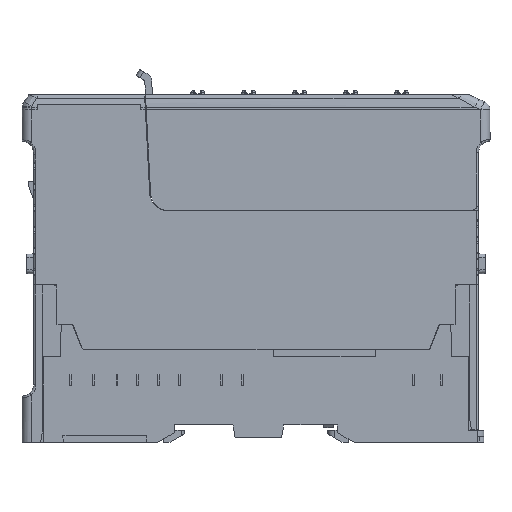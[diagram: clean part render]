
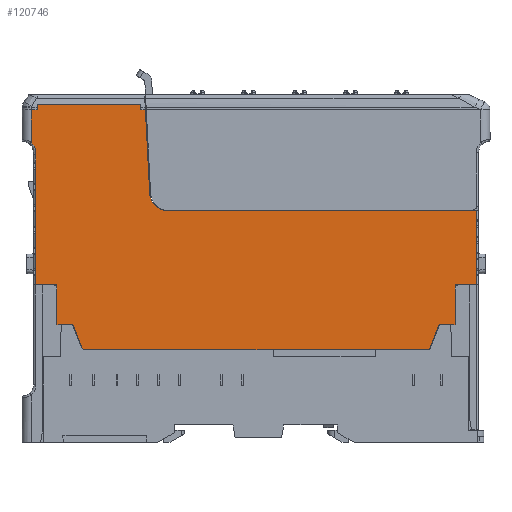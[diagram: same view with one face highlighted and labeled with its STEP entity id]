
A CAD part, left-side view. The second image highlights one B-rep face of the part: STEP entity #120746.
In plain terms, the highlighted planar face has unit normal (-1, 0, 0).
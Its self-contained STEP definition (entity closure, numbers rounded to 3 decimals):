
#107061=DIRECTION('',(0.,0.,-1.));
#107062=VECTOR('',#107061,28.05);
#107063=CARTESIAN_POINT('',(-2.1,98.,62.05));
#107064=LINE('',#107063,#107062);
#107065=CARTESIAN_POINT('',(-2.1,101.,62.5));
#107066=DIRECTION('',(-1.,0.,0.));
#107067=DIRECTION('',(0.,-0.989,-0.15));
#107068=AXIS2_PLACEMENT_3D('',#107065,#107066,#107067);
#107070=DIRECTION('',(0.,0.,
-1.));
#107071=VECTOR('',#107070,7.064);
#107072=CARTESIAN_POINT('',(-2.1,99.001,71.8));
#107073=LINE('',#107072,#107071);
#107074=DIRECTION('',(0.,-1.,0.));
#107075=VECTOR('',#107074,1.294);
#107076=CARTESIAN_POINT('',(-2.1,99.001,71.8));
#107077=LINE('',#107076,#107075);
#107078=DIRECTION('',(0.,0.,-1.));
#107079=VECTOR('',#107078,1.2);
#107080=CARTESIAN_POINT('',(-2.1,97.707,73.));
#107081=LINE('',#107080,#107079);
#107082=DIRECTION('',(0.,1.,0.));
#107083=VECTOR('',#107082,22.28);
#107084=CARTESIAN_POINT('',(-2.1,75.427,73.));
#107085=LINE('',#107084,#107083);
#107086=DIRECTION('',(0.,0.052,0.999));
#107087=VECTOR('',#107086,1.202);
#107088=CARTESIAN_POINT('',(-2.1,75.364,71.8));
#107089=LINE('',#107088,#107087);
#107090=DIRECTION('',(0.,-1.,0.));
#107091=VECTOR('',#107090,0.98);
#107092=CARTESIAN_POINT('',(-2.1,75.364,71.8));
#107093=LINE('',#107092,#107091);
#107094=DIRECTION('',(0.,1.,0.));
#107095=VECTOR('',#107094,66.446);
#107096=CARTESIAN_POINT('',(-2.1,3.,50.));
#107097=LINE('',#107096,#107095);
#107098=DIRECTION('',(0.,0.,1.));
#107099=VECTOR('',#107098,16.);
#107100=CARTESIAN_POINT('',(-2.1,3.,34.));
#107101=LINE('',#107100,#107099);
#107102=DIRECTION('',(0.,0.,1.));
#107103=VECTOR('',#107102,8.549);
#107104=CARTESIAN_POINT('',(-2.1,7.55,25.451));
#107105=LINE('',#107104,#107103);
#107106=DIRECTION('',(0.,-1.,0.));
#107107=VECTOR('',#107106,3.416);
#107108=CARTESIAN_POINT('',(-2.1,10.966,25.451));
#107109=LINE('',#107108,#107107);
#107110=DIRECTION('',(0.,-0.366,0.931));
#107111=VECTOR('',#107110,5.175);
#107112=CARTESIAN_POINT('',(-2.1,12.858,20.634));
#107113=LINE('',#107112,#107111);
#107114=CARTESIAN_POINT('',(-2.1,13.789,21.));
#107115=DIRECTION('',(-1.,0.,0.));
#107116=DIRECTION('',(0.,0.,-1.));
#107117=AXIS2_PLACEMENT_3D('',#107114,#107115,#107116);
#107119=DIRECTION('',(0.,-1.,0.));
#107120=VECTOR('',#107119,73.422);
#107121=CARTESIAN_POINT('',(-2.1,87.211,20.));
#107122=LINE('',#107121,#107120);
#107123=CARTESIAN_POINT('',(-2.1,87.211,21.));
#107124=DIRECTION('',(-1.,0.,0.));
#107125=DIRECTION('',(0.,0.931,-0.366));
#107126=AXIS2_PLACEMENT_3D('',#107123,#107124,#107125);
#107128=DIRECTION('',(0.,-0.366,-0.931));
#107129=VECTOR('',#107128,5.175);
#107130=CARTESIAN_POINT('',(-2.1,90.034,25.451));
#107131=LINE('',#107130,#107129);
#107132=DIRECTION('',(0.,-1.,0.));
#107133=VECTOR('',#107132,3.416);
#107134=CARTESIAN_POINT('',(-2.1,93.45,25.451));
#107135=LINE('',#107134,#107133);
#107136=DIRECTION('',(0.,0.,-1.));
#107137=VECTOR('',#107136,8.549);
#107138=CARTESIAN_POINT('',(-2.1,93.45,34.));
#107139=LINE('',#107138,#107137);
#107140=CARTESIAN_POINT('',(-2.1,98.034,62.05));
#107141=CARTESIAN_POINT('',(-2.1,98.03,62.05));
#107142=CARTESIAN_POINT('',(-2.1,98.023,62.05));
#107143=CARTESIAN_POINT('',(-2.1,98.011,62.05));
#107144=CARTESIAN_POINT('',(-2.1,98.004,62.05));
#107145=CARTESIAN_POINT('',(-2.1,98.,62.05));
#107301=DIRECTION('',(0.,-1.,0.));
#107302=VECTOR('',#107301,4.55);
#107303=CARTESIAN_POINT('',(-2.1,98.,34.));
#107304=LINE('',#107303,#107302);
#107934=DIRECTION('',(0.,-1.,0.));
#107935=VECTOR('',#107934,4.55);
#107936=CARTESIAN_POINT('',(-2.1,7.55,34.));
#107937=LINE('',#107936,#107935);
#113397=DIRECTION('',(0.,0.052,0.999));
#113398=VECTOR('',#113397,18.034);
#113399=CARTESIAN_POINT('',(-2.1,73.441,53.791));
#113400=LINE('',#113399,#113398);
#114424=CARTESIAN_POINT('',(-2.1,69.446,54.));
#114425=DIRECTION('',(1.,0.,0.));
#114426=DIRECTION('',(0.,0.,-1.));
#114427=AXIS2_PLACEMENT_3D('',#114424,#114425,#114426);
#114895=CARTESIAN_POINT('',(-2.1,98.,34.));
#114897=VERTEX_POINT('',#114895);
#114899=CARTESIAN_POINT('',(-2.1,3.,50.));
#114901=VERTEX_POINT('',#114899);
#114904=CARTESIAN_POINT('',(-2.1,3.,34.));
#114906=VERTEX_POINT('',#114904);
#115099=CARTESIAN_POINT('',(-2.1,73.441,53.791));
#115101=VERTEX_POINT('',#115099);
#115103=CARTESIAN_POINT('',(-2.1,69.446,50.));
#115105=VERTEX_POINT('',#115103);
#116125=CARTESIAN_POINT('',(-2.1,88.142,20.634));
#116126=CARTESIAN_POINT('',(-2.1,87.211,20.));
#116127=VERTEX_POINT('',#116125);
#116128=VERTEX_POINT('',#116126);
#116129=CARTESIAN_POINT('',(-2.1,13.789,20.));
#116130=CARTESIAN_POINT('',(-2.1,12.858,20.634));
#116131=VERTEX_POINT('',#116129);
#116132=VERTEX_POINT('',#116130);
#116291=CARTESIAN_POINT('',(-2.1,99.,64.736));
#116293=VERTEX_POINT('',#116291);
#116382=CARTESIAN_POINT('',(-2.1,99.001,71.8));
#116383=VERTEX_POINT('',#116382);
#116398=CARTESIAN_POINT('',(-2.1,74.385,71.8));
#116399=VERTEX_POINT('',#116398);
#117266=CARTESIAN_POINT('',(-2.1,93.45,34.));
#117267=CARTESIAN_POINT('',(-2.1,93.45,25.451));
#117268=VERTEX_POINT('',#117266);
#117269=VERTEX_POINT('',#117267);
#117270=CARTESIAN_POINT('',(-2.1,7.55,25.451));
#117271=CARTESIAN_POINT('',(-2.1,7.55,34.));
#117272=VERTEX_POINT('',#117270);
#117273=VERTEX_POINT('',#117271);
#117274=CARTESIAN_POINT('',(-2.1,75.427,73.));
#117275=CARTESIAN_POINT('',(-2.1,97.707,73.));
#117276=VERTEX_POINT('',#117274);
#117277=VERTEX_POINT('',#117275);
#117796=CARTESIAN_POINT('',(-2.1,90.034,25.451));
#117797=VERTEX_POINT('',#117796);
#117798=CARTESIAN_POINT('',(-2.1,10.966,25.451));
#117799=VERTEX_POINT('',#117798);
#117838=CARTESIAN_POINT('',(-2.1,97.707,71.8));
#117839=VERTEX_POINT('',#117838);
#117862=CARTESIAN_POINT('',(-2.1,75.364,71.8));
#117863=VERTEX_POINT('',#117862);
#117920=VERTEX_POINT('',#107140);
#117921=VERTEX_POINT('',#107145);
#120696=CARTESIAN_POINT('',(-2.1,0.,0.));
#120697=DIRECTION('',(-1.,0.,0.));
#120698=DIRECTION('',(0.,-1.,0.));
#120699=AXIS2_PLACEMENT_3D('',#120696,#120697,#120698);
#120700=PLANE('',#120699);
#120702=ORIENTED_EDGE('',*,*,#120701,.F.);
#120704=ORIENTED_EDGE('',*,*,#120703,.F.);
#120706=ORIENTED_EDGE('',*,*,#120705,.T.);
#120708=ORIENTED_EDGE('',*,*,#120707,.F.);
#120709=ORIENTED_EDGE('',*,*,#120673,.T.);
#120710=ORIENTED_EDGE('',*,*,#120496,.F.);
#120712=ORIENTED_EDGE('',*,*,#120711,.F.);
#120714=ORIENTED_EDGE('',*,*,#120713,.F.);
#120715=ORIENTED_EDGE('',*,*,#120691,.T.);
#120717=ORIENTED_EDGE('',*,*,#120716,.F.);
#120719=ORIENTED_EDGE('',*,*,#120718,.F.);
#120720=ORIENTED_EDGE('',*,*,#118171,.F.);
#120721=ORIENTED_EDGE('',*,*,#119002,.F.);
#120723=ORIENTED_EDGE('',*,*,#120722,.F.);
#120725=ORIENTED_EDGE('',*,*,#120724,.F.);
#120727=ORIENTED_EDGE('',*,*,#120726,.F.);
#120729=ORIENTED_EDGE('',*,*,#120728,.F.);
#120731=ORIENTED_EDGE('',*,*,#120730,.F.);
#120733=ORIENTED_EDGE('',*,*,#120732,.F.);
#120735=ORIENTED_EDGE('',*,*,#120734,.F.);
#120737=ORIENTED_EDGE('',*,*,#120736,.F.);
#120739=ORIENTED_EDGE('',*,*,#120738,.F.);
#120741=ORIENTED_EDGE('',*,*,#120740,.F.);
#120743=ORIENTED_EDGE('',*,*,#120742,.F.);
#120744=EDGE_LOOP('',(#120702,#120704,#120706,#120708,#120709,#120710,#120712,
#120714,#120715,#120717,#120719,#120720,#120721,#120723,#120725,#120727,#120729,
#120731,#120733,#120735,#120737,#120739,#120741,#120743));
#120745=FACE_OUTER_BOUND('',#120744,.F.);
#120746=ADVANCED_FACE('',(#120745),#120700,.T.);
#107069=CIRCLE('',#107068,3.);
#107118=CIRCLE('',#107117,1.);
#107127=CIRCLE('',#107126,1.);
#107146=B_SPLINE_CURVE_WITH_KNOTS('',3,(#107140,#107141,#107142,#107143,#107144,
#107145),.UNSPECIFIED.,.F.,.F.,(4,1,1,4),(0.,0.333,
0.667,1.),.UNSPECIFIED.);
#114428=CIRCLE('',#114427,4.);
#118171=EDGE_CURVE('',#114901,#115105,#107097,.T.);
#119002=EDGE_CURVE('',#114906,#114901,#107101,.T.);
#120496=EDGE_CURVE('',#117277,#117839,#107081,.T.);
#120673=EDGE_CURVE('',#116383,#117839,#107077,.T.);
#120691=EDGE_CURVE('',#117863,#116399,#107093,.T.);
#120701=EDGE_CURVE('',#117921,#114897,#107064,.T.);
#120703=EDGE_CURVE('',#117920,#117921,#107146,.T.);
#120705=EDGE_CURVE('',#117920,#116293,#107069,.T.);
#120707=EDGE_CURVE('',#116383,#116293,#107073,.T.);
#120711=EDGE_CURVE('',#117276,#117277,#107085,.T.);
#120713=EDGE_CURVE('',#117863,#117276,#107089,.T.);
#120716=EDGE_CURVE('',#115101,#116399,#113400,.T.);
#120718=EDGE_CURVE('',#115105,#115101,#114428,.T.);
#120722=EDGE_CURVE('',#117273,#114906,#107937,.T.);
#120724=EDGE_CURVE('',#117272,#117273,#107105,.T.);
#120726=EDGE_CURVE('',#117799,#117272,#107109,.T.);
#120728=EDGE_CURVE('',#116132,#117799,#107113,.T.);
#120730=EDGE_CURVE('',#116131,#116132,#107118,.T.);
#120732=EDGE_CURVE('',#116128,#116131,#107122,.T.);
#120734=EDGE_CURVE('',#116127,#116128,#107127,.T.);
#120736=EDGE_CURVE('',#117797,#116127,#107131,.T.);
#120738=EDGE_CURVE('',#117269,#117797,#107135,.T.);
#120740=EDGE_CURVE('',#117268,#117269,#107139,.T.);
#120742=EDGE_CURVE('',#114897,#117268,#107304,.T.);
